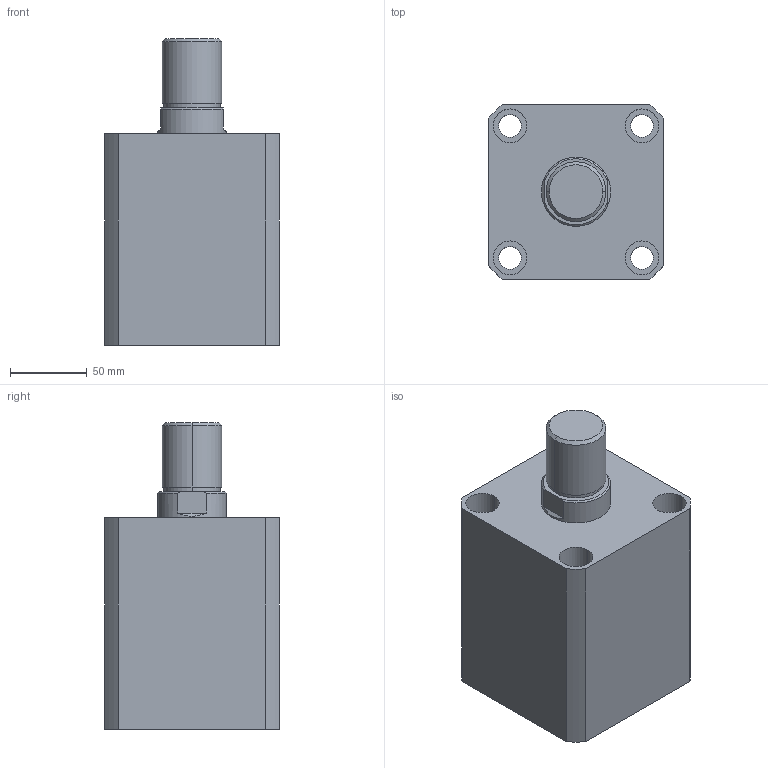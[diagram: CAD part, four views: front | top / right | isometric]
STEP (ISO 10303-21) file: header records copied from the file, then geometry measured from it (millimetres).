
FILE_DESCRIPTION (( 'STEP AP203' ), '1' );
FILE_NAME ('HTB-SDMB80-60W.STEP', '2019-10-09T06:08:15', ( '微软用户' ), ( '微软中国' ), 'SwSTEP 2.0', 'SolidWorks 2012', '' );
FILE_SCHEMA (( 'CONFIG_CONTROL_DESIGN' ));
Length unit declared in the file: millimetre
Products named in the file (3): HTB-SDMB80-60掛极; HTB-SDMB80-60W活塞杆; HTB-SDMB80-60W
Assembly tree (2 placements, depth 2):
  HTB-SDMB80-60W
    HTB-SDMB80-60掛极
    HTB-SDMB80-60W活塞杆
Bounding box: 114 x 114 x 200 mm (x, y, z)
Volume: 1522171.9 mm3; surface area: 186448 mm2
Topology: 2 solids, 2 shells, 141 faces, 337 edges, 222 vertices
Faces by surface type: plane 67, cylinder 48, bspline 16, torus 6, cone 4
Entity records: 5180 total; most frequent: CARTESIAN_POINT 1597, ORIENTED_EDGE 674, DIRECTION 669, EDGE_CURVE 337, AXIS2_PLACEMENT_3D 242, VERTEX_POINT 222, LINE 185, VECTOR 185
